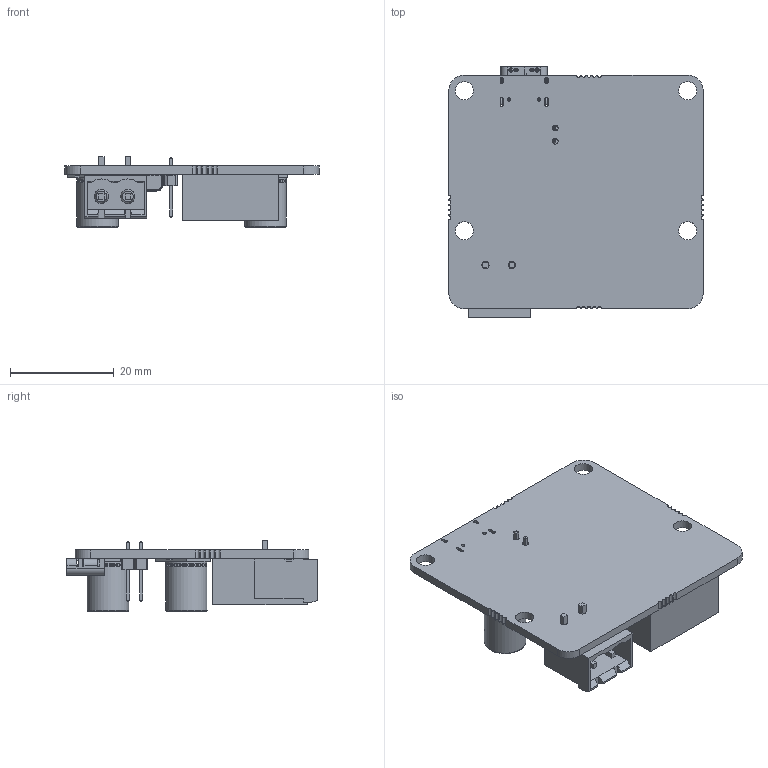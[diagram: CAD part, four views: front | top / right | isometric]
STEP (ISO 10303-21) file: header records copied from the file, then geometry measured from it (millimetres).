
FILE_DESCRIPTION(/* description */ ('Open CASCADE Model','CAx-IF Rec.Pracs.---Representation and Presentation of Product Manufacturing Information (PMI)---4.0---2014-10-13'),/* implementation_level */ '2;1');
FILE_NAME(/* name */ 'WTF-1xIP6557V100-DEV v1.step',/* time_stamp */ '2025-02-13T14:45:14-05:00',/* author */ (''),/* organization */ (''),/* preprocessor_version */ 'ST-DEVELOPER v20',/* originating_system */ 'Autodesk Translation Framework v13.20.0.188',/* authorisation */ '');
FILE_SCHEMA (('AP242_MANAGED_MODEL_BASED_3D_ENGINEERING_MIM_LF { 1 0 10303 442 1 1 4 }'));
Length unit declared in the file: millimetre
Products named in the file (24): PCB; BoardIP-PD10065; Open CASCADE STEP translator 6.8 1.1.1; Open CASCADE STEP translator 6.8 1.1.1.1; J2IP-PD10065; 61300211121; 61300211121_1; 61300211121_2; L1IP-PD10065; 9919923760; Extruded; C15IP-PD10065; C9IP-PD10065; User_Library-00001427___220µF-35V_[S8D0_10L2_9M1]_FKserie_Low_ESR; J1IP-PD10065; User_Library-USB_-_C_m; J_IN1IP-PD10065; c-796638-2-c3-3d; LED2IP-PD10065; WL-SMCW_0603_LED; housing; cover; base; Polarity_Mark
Assembly tree (25 placements, depth 4):
  PCB
    BoardIP-PD10065
      Open CASCADE STEP translator 6.8 1.1.1
        Open CASCADE STEP translator 6.8 1.1.1.1
    J2IP-PD10065
      61300211121
      61300211121_1
      61300211121_2
    L1IP-PD10065
      9919923760
        Extruded
    C15IP-PD10065
      User_Library-00001427___220µF-35V_[S8D0_10L2_9M1]_FKserie_Low_ESR
    C9IP-PD10065
      User_Library-00001427___220µF-35V_[S8D0_10L2_9M1]_FKserie_Low_ESR
    J1IP-PD10065
      User_Library-USB_-_C_m
    J_IN1IP-PD10065
      c-796638-2-c3-3d
    LED2IP-PD10065
      WL-SMCW_0603_LED
        housing
        cover
        base  x2
        Polarity_Mark
Bounding box: 49 x 48.21 x 13.55 mm (x, y, z)
Volume: 8219 mm3; surface area: 8487.5 mm2
Topology: 14 solids, 21 shells, 1532 faces, 4290 edges, 2804 vertices
Faces by surface type: plane 1140, cylinder 281, bspline 46, torus 34, cone 23, sphere 8
Full cylindrical faces by diameter (mm): 0.5 x2, 0.65 x2, 0.692 x2, 1.1 x2, 1.4 x2, 3.5 x4, 7.6 x2, 8 x4
Entity records: 51369 total; most frequent: CARTESIAN_POINT 11111, ORIENTED_EDGE 8358, DIRECTION 7848, EDGE_CURVE 4179, LINE 3350, VECTOR 3350, VERTEX_POINT 2736, AXIS2_PLACEMENT_3D 2249
